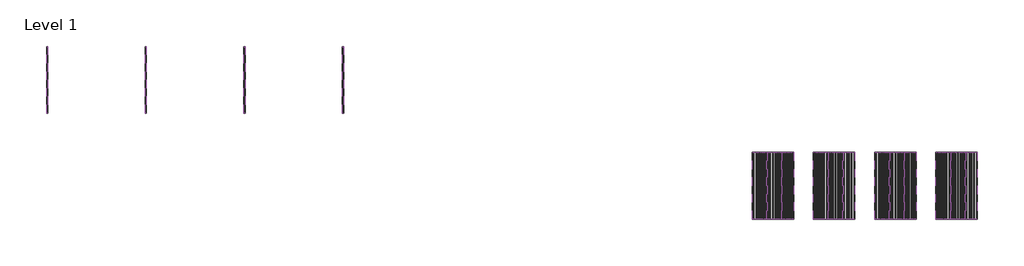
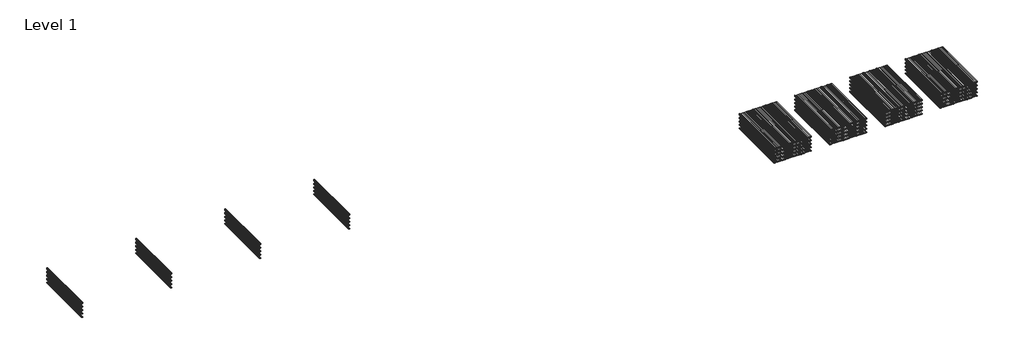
# One storey, incomplete: 80 plates.
"""IFC4 building model written with IfcOpenShell, lengths in millimetres."""

from ifc_helpers import new_model, si_unit, origin, place, context, project, spatial, transform, mapped, element, save
from components import plate_78044e65, plate_8ebf9e64, plate_1189f156, plate_2aa0ecfb, plate_6eb5bec9, plate_4da1124c, plate_e932f5b0, plate_27f2c497, plate_cfb06c0a, plate_013d1d16, plate_3d06f1da, plate_7e4b2e3b, plate_5461fc3c, plate_6784a85b, plate_64fb639c, plate_9c762072, plate_64f30df9, plate_2c15fbec, plate_7fcfe3b8, plate_cba14e92

model = new_model("IFC4")

# Units and contexts
model_context = context("Model", 3, world=origin())
ifc_project = project(units=[si_unit("LENGTHUNIT", "METRE", prefix="MILLI")], contexts=[model_context])

# Site, building, storey
site = spatial("IfcSite", under=ifc_project)
building = spatial("IfcBuilding", under=site)
storey = spatial("IfcBuildingStorey", under=building, Name="Level 1", Elevation=0.0)

# Plates
placement = place(None, origin())
plate_shape = plate_78044e65(model_context)
element("IfcPlate", 1, ObjectType="Paneles-Sándwich-Madera_PALDR-AC_Curtain-Panel : PALDR AC 30/15", at=placement, inside=storey, context=model_context, shape_type="MappedRepresentation", body=[
    mapped(plate_shape, transform((-8968.7651938, -3830.5491567, 500.0), x_axis=(1.0, 0.0, 0.0), y_axis=(0.0, 0.0, -1.0), z_axis=(0.0, 1.0, 0.0))),
])
element("IfcPlate", 2, ObjectType="Paneles-Sándwich-Madera_PALDR-AC_Curtain-Panel : PALDR AC 30/15", at=placement, inside=storey, context=model_context, shape_type="MappedRepresentation", body=[
    mapped(plate_shape, transform((13231.2348056, -3830.4381533, 500.0), x_axis=(1.0, 0.0, 0.0), y_axis=(0.0, 0.0, -1.0), z_axis=(0.0, 1.0, 0.0))),
])
plate_2_shape = plate_8ebf9e64(model_context)
element("IfcPlate", 3, ObjectType="Paneles-Sándwich-Madera_PALDR-AC_Curtain-Panel : PALDR AC 40/15", at=placement, inside=storey, context=model_context, shape_type="MappedRepresentation", body=[
    mapped(plate_2_shape, transform((-8968.7651938, -3830.5491567, 800.0), x_axis=(1.0, 0.0, 0.0), y_axis=(0.0, 0.0, -1.0), z_axis=(0.0, 1.0, 0.0))),
])
element("IfcPlate", 4, ObjectType="Paneles-Sándwich-Madera_PALDR-AC_Curtain-Panel : PALDR AC 40/15", at=placement, inside=storey, context=model_context, shape_type="MappedRepresentation", body=[
    mapped(plate_2_shape, transform((13231.2348056, -3830.4381533, 800.0), x_axis=(1.0, 0.0, 0.0), y_axis=(0.0, 0.0, -1.0), z_axis=(0.0, 1.0, 0.0))),
])
plate_3_shape = plate_1189f156(model_context)
element("IfcPlate", 5, ObjectType="Paneles-Sándwich-Madera_PALDR-AC_Curtain-Panel : PALDR AC 50/15", at=placement, inside=storey, context=model_context, shape_type="MappedRepresentation", body=[
    mapped(plate_3_shape, transform((-8968.7651938, -3830.5491567, 1100.0), x_axis=(1.0, 0.0, 0.0), y_axis=(0.0, 0.0, -1.0), z_axis=(0.0, 1.0, 0.0))),
])
element("IfcPlate", 6, ObjectType="Paneles-Sándwich-Madera_PALDR-AC_Curtain-Panel : PALDR AC 50/15", at=placement, inside=storey, context=model_context, shape_type="MappedRepresentation", body=[
    mapped(plate_3_shape, transform((13231.2348056, -3830.4381533, 1100.0), x_axis=(1.0, 0.0, 0.0), y_axis=(0.0, 0.0, -1.0), z_axis=(0.0, 1.0, 0.0))),
])
plate_4_shape = plate_2aa0ecfb(model_context)
element("IfcPlate", 7, ObjectType="Paneles-Sándwich-Madera_PALDR-AC_Curtain-Panel : PALDR AC 60/15", at=placement, inside=storey, context=model_context, shape_type="MappedRepresentation", body=[
    mapped(plate_4_shape, transform((-8968.7651938, -3830.5491567, 1400.0), x_axis=(1.0, 0.0, 0.0), y_axis=(0.0, 0.0, -1.0), z_axis=(0.0, 1.0, 0.0))),
])
element("IfcPlate", 8, ObjectType="Paneles-Sándwich-Madera_PALDR-AC_Curtain-Panel : PALDR AC 60/15", at=placement, inside=storey, context=model_context, shape_type="MappedRepresentation", body=[
    mapped(plate_4_shape, transform((13231.2348056, -3830.4381533, 1400.0), x_axis=(1.0, 0.0, 0.0), y_axis=(0.0, 0.0, -1.0), z_axis=(0.0, 1.0, 0.0))),
])
plate_5_shape = plate_6eb5bec9(model_context)
element("IfcPlate", 9, ObjectType="Paneles-Sándwich-Madera_PALDR-AC_Curtain-Panel : PALDR AC 80/15", at=placement, inside=storey, context=model_context, shape_type="MappedRepresentation", body=[
    mapped(plate_5_shape, transform((-8968.7651938, -3830.5491567, 1700.0), x_axis=(1.0, 0.0, 0.0), y_axis=(0.0, 0.0, -1.0), z_axis=(0.0, 1.0, 0.0))),
])
element("IfcPlate", 10, ObjectType="Paneles-Sándwich-Madera_PALDR-AC_Curtain-Panel : PALDR AC 80/15", at=placement, inside=storey, context=model_context, shape_type="MappedRepresentation", body=[
    mapped(plate_5_shape, transform((13231.2348056, -3830.4381533, 1700.0), x_axis=(1.0, 0.0, 0.0), y_axis=(0.0, 0.0, -1.0), z_axis=(0.0, 1.0, 0.0))),
])
plate_6_shape = plate_4da1124c(model_context)
element("IfcPlate", 11, ObjectType="Paneles-Sándwich-Madera_PALDR-H_Curtain-Panel : PALDR H 30/10", at=placement, inside=storey, context=model_context, shape_type="MappedRepresentation", body=[
    mapped(plate_6_shape, transform((5831.234806, -3830.493655, 500.0), x_axis=(1.0, 0.0, 0.0), y_axis=(0.0, 0.0, -1.0), z_axis=(0.0, 1.0, 0.0))),
])
plate_7_shape = plate_e932f5b0(model_context)
element("IfcPlate", 12, ObjectType="Paneles-Sándwich-Madera_PALDR-H_Curtain-Panel : PALDR H 40/10", at=placement, inside=storey, context=model_context, shape_type="MappedRepresentation", body=[
    mapped(plate_7_shape, transform((5831.234806, -3830.493655, 800.0), x_axis=(1.0, 0.0, 0.0), y_axis=(0.0, 0.0, -1.0), z_axis=(0.0, 1.0, 0.0))),
])
plate_8_shape = plate_27f2c497(model_context)
element("IfcPlate", 13, ObjectType="Paneles-Sándwich-Madera_PALDR-H_Curtain-Panel : PALDR H 50/10", at=placement, inside=storey, context=model_context, shape_type="MappedRepresentation", body=[
    mapped(plate_8_shape, transform((5831.234806, -3830.493655, 1100.0), x_axis=(1.0, 0.0, 0.0), y_axis=(0.0, 0.0, -1.0), z_axis=(0.0, 1.0, 0.0))),
])
plate_9_shape = plate_cfb06c0a(model_context)
element("IfcPlate", 14, ObjectType="Paneles-Sándwich-Madera_PALDR-H_Curtain-Panel : PALDR H 60/10", at=placement, inside=storey, context=model_context, shape_type="MappedRepresentation", body=[
    mapped(plate_9_shape, transform((5831.234806, -3830.493655, 1400.0), x_axis=(1.0, 0.0, 0.0), y_axis=(0.0, 0.0, -1.0), z_axis=(0.0, 1.0, 0.0))),
])
plate_10_shape = plate_013d1d16(model_context)
element("IfcPlate", 15, ObjectType="Paneles-Sándwich-Madera_PALDR-H_Curtain-Panel : PALDR H 80/10", at=placement, inside=storey, context=model_context, shape_type="MappedRepresentation", body=[
    mapped(plate_10_shape, transform((5831.234806, -3830.493655, 1700.0), x_axis=(1.0, 0.0, 0.0), y_axis=(0.0, 0.0, -1.0), z_axis=(0.0, 1.0, 0.0))),
])
element("IfcPlate", 16, ObjectType="Paneles-Sándwich-Madera_PALDR-O_Curtain-Panel : PALDR O 30/10", at=placement, inside=storey, context=model_context, shape_type="MappedRepresentation", body=[
    mapped(plate_6_shape, transform((-1568.7651938, -3830.5491567, 500.0), x_axis=(1.0, 0.0, 0.0), y_axis=(0.0, 0.0, -1.0), z_axis=(0.0, 1.0, 0.0))),
])
element("IfcPlate", 17, ObjectType="Paneles-Sándwich-Madera_PALDR-O_Curtain-Panel : PALDR O 40/10", at=placement, inside=storey, context=model_context, shape_type="MappedRepresentation", body=[
    mapped(plate_7_shape, transform((-1568.7651938, -3830.5491567, 800.0), x_axis=(1.0, 0.0, 0.0), y_axis=(0.0, 0.0, -1.0), z_axis=(0.0, 1.0, 0.0))),
])
element("IfcPlate", 18, ObjectType="Paneles-Sándwich-Madera_PALDR-O_Curtain-Panel : PALDR O 50/10", at=placement, inside=storey, context=model_context, shape_type="MappedRepresentation", body=[
    mapped(plate_8_shape, transform((-1568.7651938, -3830.5491567, 1100.0), x_axis=(1.0, 0.0, 0.0), y_axis=(0.0, 0.0, -1.0), z_axis=(0.0, 1.0, 0.0))),
])
element("IfcPlate", 19, ObjectType="Paneles-Sándwich-Madera_PALDR-O_Curtain-Panel : PALDR O 60/10", at=placement, inside=storey, context=model_context, shape_type="MappedRepresentation", body=[
    mapped(plate_9_shape, transform((-1568.7651938, -3830.5491567, 1400.0), x_axis=(1.0, 0.0, 0.0), y_axis=(0.0, 0.0, -1.0), z_axis=(0.0, 1.0, 0.0))),
])
element("IfcPlate", 20, ObjectType="Paneles-Sándwich-Madera_PALDR-O_Curtain-Panel : PALDR O 80/10", at=placement, inside=storey, context=model_context, shape_type="MappedRepresentation", body=[
    mapped(plate_10_shape, transform((-1568.7651938, -3830.5491567, 1700.0), x_axis=(1.0, 0.0, 0.0), y_axis=(0.0, 0.0, -1.0), z_axis=(0.0, 1.0, 0.0))),
])
plate_11_shape = plate_3d06f1da(model_context)
element("IfcPlate", 21, ObjectType="Paneles-Sándwich-Madera_PAPUR-AC_Curtain-Panel : PAPUR AC 80/10", at=placement, inside=storey, context=model_context, shape_type="MappedRepresentation", body=[
    mapped(plate_11_shape, transform((58336.966913, -11787.1732605, 1556.1283436), x_axis=(1.0, 0.0, 0.0), y_axis=(0.0, 0.0, -1.0), z_axis=(0.0, 1.0, 0.0))),
])
element("IfcPlate", 22, ObjectType="Paneles-Sándwich-Madera_PAPUR-AC_Curtain-Panel : PAPUR AC 80/10", at=placement, inside=storey, context=model_context, shape_type="MappedRepresentation", body=[
    mapped(plate_11_shape, transform((59436.966913, -11787.1732605, 1556.1283436), x_axis=(1.0, 0.0, 0.0), y_axis=(0.0, 0.0, -1.0), z_axis=(0.0, 1.0, 0.0))),
])
plate_12_shape = plate_7e4b2e3b(model_context)
element("IfcPlate", 23, ObjectType="Paneles-Sándwich-Madera_PAPUR-AC_Curtain-Panel : PAPUR AC 80/10", at=placement, inside=storey, context=model_context, shape_type="MappedRepresentation", body=[
    mapped(plate_12_shape, transform((60436.966913, -11787.1732605, 1556.1283436), x_axis=(1.0, 0.0, 0.0), y_axis=(0.0, 0.0, -1.0), z_axis=(0.0, 1.0, 0.0))),
])
plate_13_shape = plate_5461fc3c(model_context)
element("IfcPlate", 24, ObjectType="Paneles-Sándwich-Madera_PAPUR-AC_Curtain-Panel : PAPUR AC 60/10", at=placement, inside=storey, context=model_context, shape_type="MappedRepresentation", body=[
    mapped(plate_13_shape, transform((58336.966913, -11787.1732605, 1256.1283436), x_axis=(1.0, 0.0, 0.0), y_axis=(0.0, 0.0, -1.0), z_axis=(0.0, 1.0, 0.0))),
])
element("IfcPlate", 25, ObjectType="Paneles-Sándwich-Madera_PAPUR-AC_Curtain-Panel : PAPUR AC 60/10", at=placement, inside=storey, context=model_context, shape_type="MappedRepresentation", body=[
    mapped(plate_13_shape, transform((59436.966913, -11787.1732605, 1256.1283436), x_axis=(1.0, 0.0, 0.0), y_axis=(0.0, 0.0, -1.0), z_axis=(0.0, 1.0, 0.0))),
])
plate_14_shape = plate_6784a85b(model_context)
element("IfcPlate", 26, ObjectType="Paneles-Sándwich-Madera_PAPUR-AC_Curtain-Panel : PAPUR AC 60/10", at=placement, inside=storey, context=model_context, shape_type="MappedRepresentation", body=[
    mapped(plate_14_shape, transform((60436.966913, -11787.1732605, 1256.1283436), x_axis=(1.0, 0.0, 0.0), y_axis=(0.0, 0.0, -1.0), z_axis=(0.0, 1.0, 0.0))),
])
plate_15_shape = plate_64fb639c(model_context)
element("IfcPlate", 27, ObjectType="Paneles-Sándwich-Madera_PAPUR-AC_Curtain-Panel : PAPUR AC 50/10", at=placement, inside=storey, context=model_context, shape_type="MappedRepresentation", body=[
    mapped(plate_15_shape, transform((58336.966913, -11787.1732605, 956.1283436), x_axis=(1.0, 0.0, 0.0), y_axis=(0.0, 0.0, -1.0), z_axis=(0.0, 1.0, 0.0))),
])
element("IfcPlate", 28, ObjectType="Paneles-Sándwich-Madera_PAPUR-AC_Curtain-Panel : PAPUR AC 50/10", at=placement, inside=storey, context=model_context, shape_type="MappedRepresentation", body=[
    mapped(plate_15_shape, transform((59436.966913, -11787.1732605, 956.1283436), x_axis=(1.0, 0.0, 0.0), y_axis=(0.0, 0.0, -1.0), z_axis=(0.0, 1.0, 0.0))),
])
plate_16_shape = plate_9c762072(model_context)
element("IfcPlate", 29, ObjectType="Paneles-Sándwich-Madera_PAPUR-AC_Curtain-Panel : PAPUR AC 50/10", at=placement, inside=storey, context=model_context, shape_type="MappedRepresentation", body=[
    mapped(plate_16_shape, transform((60436.966913, -11787.1732605, 956.1283436), x_axis=(1.0, 0.0, 0.0), y_axis=(0.0, 0.0, -1.0), z_axis=(0.0, 1.0, 0.0))),
])
plate_17_shape = plate_64f30df9(model_context)
element("IfcPlate", 30, ObjectType="Paneles-Sándwich-Madera_PAPUR-AC_Curtain-Panel : PAPUR AC 40/10", at=placement, inside=storey, context=model_context, shape_type="MappedRepresentation", body=[
    mapped(plate_17_shape, transform((58336.966913, -11787.1732605, 656.1283436), x_axis=(1.0, 0.0, 0.0), y_axis=(0.0, 0.0, -1.0), z_axis=(0.0, 1.0, 0.0))),
])
element("IfcPlate", 31, ObjectType="Paneles-Sándwich-Madera_PAPUR-AC_Curtain-Panel : PAPUR AC 40/10", at=placement, inside=storey, context=model_context, shape_type="MappedRepresentation", body=[
    mapped(plate_17_shape, transform((59436.966913, -11787.1732605, 656.1283436), x_axis=(1.0, 0.0, 0.0), y_axis=(0.0, 0.0, -1.0), z_axis=(0.0, 1.0, 0.0))),
])
plate_18_shape = plate_2c15fbec(model_context)
element("IfcPlate", 32, ObjectType="Paneles-Sándwich-Madera_PAPUR-AC_Curtain-Panel : PAPUR AC 40/10", at=placement, inside=storey, context=model_context, shape_type="MappedRepresentation", body=[
    mapped(plate_18_shape, transform((60436.966913, -11787.1732605, 656.1283436), x_axis=(1.0, 0.0, 0.0), y_axis=(0.0, 0.0, -1.0), z_axis=(0.0, 1.0, 0.0))),
])
plate_19_shape = plate_7fcfe3b8(model_context)
element("IfcPlate", 33, ObjectType="Paneles-Sándwich-Madera_PAPUR-AC_Curtain-Panel : PAPUR AC 30/10", at=placement, inside=storey, context=model_context, shape_type="MappedRepresentation", body=[
    mapped(plate_19_shape, transform((58336.966913, -11787.1732605, 356.1283436), x_axis=(1.0, 0.0, 0.0), y_axis=(0.0, 0.0, -1.0), z_axis=(0.0, 1.0, 0.0))),
])
element("IfcPlate", 34, ObjectType="Paneles-Sándwich-Madera_PAPUR-AC_Curtain-Panel : PAPUR AC 30/10", at=placement, inside=storey, context=model_context, shape_type="MappedRepresentation", body=[
    mapped(plate_19_shape, transform((59436.966913, -11787.1732605, 356.1283436), x_axis=(1.0, 0.0, 0.0), y_axis=(0.0, 0.0, -1.0), z_axis=(0.0, 1.0, 0.0))),
])
plate_20_shape = plate_cba14e92(model_context)
element("IfcPlate", 35, ObjectType="Paneles-Sándwich-Madera_PAPUR-AC_Curtain-Panel : PAPUR AC 30/10", at=placement, inside=storey, context=model_context, shape_type="MappedRepresentation", body=[
    mapped(plate_20_shape, transform((60436.966913, -11787.1732605, 356.1283436), x_axis=(1.0, 0.0, 0.0), y_axis=(0.0, 0.0, -1.0), z_axis=(0.0, 1.0, 0.0))),
])
element("IfcPlate", 36, ObjectType="Paneles-Sándwich-Madera_PAPUR-AN_Curtain-Panel : PAPUR AN 80/10", at=placement, inside=storey, context=model_context, shape_type="MappedRepresentation", body=[
    mapped(plate_11_shape, transform((44536.966913, -11787.1732605, 1556.1283436), x_axis=(1.0, 0.0, 0.0), y_axis=(0.0, 0.0, -1.0), z_axis=(0.0, 1.0, 0.0))),
])
element("IfcPlate", 37, ObjectType="Paneles-Sándwich-Madera_PAPUR-AN_Curtain-Panel : PAPUR AN 80/10", at=placement, inside=storey, context=model_context, shape_type="MappedRepresentation", body=[
    mapped(plate_11_shape, transform((45636.966913, -11787.1732605, 1556.1283436), x_axis=(1.0, 0.0, 0.0), y_axis=(0.0, 0.0, -1.0), z_axis=(0.0, 1.0, 0.0))),
])
element("IfcPlate", 38, ObjectType="Paneles-Sándwich-Madera_PAPUR-AN_Curtain-Panel : PAPUR AN 80/10", at=placement, inside=storey, context=model_context, shape_type="MappedRepresentation", body=[
    mapped(plate_12_shape, transform((46636.966913, -11787.1732605, 1556.1283436), x_axis=(1.0, 0.0, 0.0), y_axis=(0.0, 0.0, -1.0), z_axis=(0.0, 1.0, 0.0))),
])
element("IfcPlate", 39, ObjectType="Paneles-Sándwich-Madera_PAPUR-AN_Curtain-Panel : PAPUR AN 60/10", at=placement, inside=storey, context=model_context, shape_type="MappedRepresentation", body=[
    mapped(plate_13_shape, transform((44536.966913, -11787.1732605, 1256.1283436), x_axis=(1.0, 0.0, 0.0), y_axis=(0.0, 0.0, -1.0), z_axis=(0.0, 1.0, 0.0))),
])
element("IfcPlate", 40, ObjectType="Paneles-Sándwich-Madera_PAPUR-AN_Curtain-Panel : PAPUR AN 60/10", at=placement, inside=storey, context=model_context, shape_type="MappedRepresentation", body=[
    mapped(plate_13_shape, transform((45636.966913, -11787.1732605, 1256.1283436), x_axis=(1.0, 0.0, 0.0), y_axis=(0.0, 0.0, -1.0), z_axis=(0.0, 1.0, 0.0))),
])
element("IfcPlate", 41, ObjectType="Paneles-Sándwich-Madera_PAPUR-AN_Curtain-Panel : PAPUR AN 60/10", at=placement, inside=storey, context=model_context, shape_type="MappedRepresentation", body=[
    mapped(plate_14_shape, transform((46636.966913, -11787.1732605, 1256.1283436), x_axis=(1.0, 0.0, 0.0), y_axis=(0.0, 0.0, -1.0), z_axis=(0.0, 1.0, 0.0))),
])
element("IfcPlate", 42, ObjectType="Paneles-Sándwich-Madera_PAPUR-AN_Curtain-Panel : PAPUR AN 50/10", at=placement, inside=storey, context=model_context, shape_type="MappedRepresentation", body=[
    mapped(plate_15_shape, transform((44536.966913, -11787.1732605, 956.1283436), x_axis=(1.0, 0.0, 0.0), y_axis=(0.0, 0.0, -1.0), z_axis=(0.0, 1.0, 0.0))),
])
element("IfcPlate", 43, ObjectType="Paneles-Sándwich-Madera_PAPUR-AN_Curtain-Panel : PAPUR AN 50/10", at=placement, inside=storey, context=model_context, shape_type="MappedRepresentation", body=[
    mapped(plate_15_shape, transform((45636.966913, -11787.1732605, 956.1283436), x_axis=(1.0, 0.0, 0.0), y_axis=(0.0, 0.0, -1.0), z_axis=(0.0, 1.0, 0.0))),
])
element("IfcPlate", 44, ObjectType="Paneles-Sándwich-Madera_PAPUR-AN_Curtain-Panel : PAPUR AN 50/10", at=placement, inside=storey, context=model_context, shape_type="MappedRepresentation", body=[
    mapped(plate_16_shape, transform((46636.966913, -11787.1732605, 956.1283436), x_axis=(1.0, 0.0, 0.0), y_axis=(0.0, 0.0, -1.0), z_axis=(0.0, 1.0, 0.0))),
])
element("IfcPlate", 45, ObjectType="Paneles-Sándwich-Madera_PAPUR-AN_Curtain-Panel : PAPUR AN 40/10", at=placement, inside=storey, context=model_context, shape_type="MappedRepresentation", body=[
    mapped(plate_17_shape, transform((44536.966913, -11787.1732605, 656.1283436), x_axis=(1.0, 0.0, 0.0), y_axis=(0.0, 0.0, -1.0), z_axis=(0.0, 1.0, 0.0))),
])
element("IfcPlate", 46, ObjectType="Paneles-Sándwich-Madera_PAPUR-AN_Curtain-Panel : PAPUR AN 40/10", at=placement, inside=storey, context=model_context, shape_type="MappedRepresentation", body=[
    mapped(plate_17_shape, transform((45636.966913, -11787.1732605, 656.1283436), x_axis=(1.0, 0.0, 0.0), y_axis=(0.0, 0.0, -1.0), z_axis=(0.0, 1.0, 0.0))),
])
element("IfcPlate", 47, ObjectType="Paneles-Sándwich-Madera_PAPUR-AN_Curtain-Panel : PAPUR AN 40/10", at=placement, inside=storey, context=model_context, shape_type="MappedRepresentation", body=[
    mapped(plate_18_shape, transform((46636.966913, -11787.1732605, 656.1283436), x_axis=(1.0, 0.0, 0.0), y_axis=(0.0, 0.0, -1.0), z_axis=(0.0, 1.0, 0.0))),
])
element("IfcPlate", 48, ObjectType="Paneles-Sándwich-Madera_PAPUR-AN_Curtain-Panel : PAPUR AN 30/10", at=placement, inside=storey, context=model_context, shape_type="MappedRepresentation", body=[
    mapped(plate_19_shape, transform((44536.966913, -11787.1732605, 356.1283436), x_axis=(1.0, 0.0, 0.0), y_axis=(0.0, 0.0, -1.0), z_axis=(0.0, 1.0, 0.0))),
])
element("IfcPlate", 49, ObjectType="Paneles-Sándwich-Madera_PAPUR-AN_Curtain-Panel : PAPUR AN 30/10", at=placement, inside=storey, context=model_context, shape_type="MappedRepresentation", body=[
    mapped(plate_19_shape, transform((45636.966913, -11787.1732605, 356.1283436), x_axis=(1.0, 0.0, 0.0), y_axis=(0.0, 0.0, -1.0), z_axis=(0.0, 1.0, 0.0))),
])
element("IfcPlate", 50, ObjectType="Paneles-Sándwich-Madera_PAPUR-AN_Curtain-Panel : PAPUR AN 30/10", at=placement, inside=storey, context=model_context, shape_type="MappedRepresentation", body=[
    mapped(plate_20_shape, transform((46636.966913, -11787.1732605, 356.1283436), x_axis=(1.0, 0.0, 0.0), y_axis=(0.0, 0.0, -1.0), z_axis=(0.0, 1.0, 0.0))),
])
element("IfcPlate", 51, ObjectType="Paneles-Sándwich-Madera_PAPUR-H_Curtain-Panel : PAPUR H 80/10", at=placement, inside=storey, context=model_context, shape_type="MappedRepresentation", body=[
    mapped(plate_11_shape, transform((53736.966913, -11787.1732605, 1556.1283436), x_axis=(1.0, 0.0, 0.0), y_axis=(0.0, 0.0, -1.0), z_axis=(0.0, 1.0, 0.0))),
])
element("IfcPlate", 52, ObjectType="Paneles-Sándwich-Madera_PAPUR-H_Curtain-Panel : PAPUR H 80/10", at=placement, inside=storey, context=model_context, shape_type="MappedRepresentation", body=[
    mapped(plate_11_shape, transform((54836.966913, -11787.1732605, 1556.1283436), x_axis=(1.0, 0.0, 0.0), y_axis=(0.0, 0.0, -1.0), z_axis=(0.0, 1.0, 0.0))),
])
element("IfcPlate", 53, ObjectType="Paneles-Sándwich-Madera_PAPUR-H_Curtain-Panel : PAPUR H 80/10", at=placement, inside=storey, context=model_context, shape_type="MappedRepresentation", body=[
    mapped(plate_12_shape, transform((55836.966913, -11787.1732605, 1556.1283436), x_axis=(1.0, 0.0, 0.0), y_axis=(0.0, 0.0, -1.0), z_axis=(0.0, 1.0, 0.0))),
])
element("IfcPlate", 54, ObjectType="Paneles-Sándwich-Madera_PAPUR-H_Curtain-Panel : PAPUR H 60/10", at=placement, inside=storey, context=model_context, shape_type="MappedRepresentation", body=[
    mapped(plate_13_shape, transform((53736.966913, -11787.1732605, 1256.1283436), x_axis=(1.0, 0.0, 0.0), y_axis=(0.0, 0.0, -1.0), z_axis=(0.0, 1.0, 0.0))),
])
element("IfcPlate", 55, ObjectType="Paneles-Sándwich-Madera_PAPUR-H_Curtain-Panel : PAPUR H 60/10", at=placement, inside=storey, context=model_context, shape_type="MappedRepresentation", body=[
    mapped(plate_13_shape, transform((54836.966913, -11787.1732605, 1256.1283436), x_axis=(1.0, 0.0, 0.0), y_axis=(0.0, 0.0, -1.0), z_axis=(0.0, 1.0, 0.0))),
])
element("IfcPlate", 56, ObjectType="Paneles-Sándwich-Madera_PAPUR-H_Curtain-Panel : PAPUR H 60/10", at=placement, inside=storey, context=model_context, shape_type="MappedRepresentation", body=[
    mapped(plate_14_shape, transform((55836.966913, -11787.1732605, 1256.1283436), x_axis=(1.0, 0.0, 0.0), y_axis=(0.0, 0.0, -1.0), z_axis=(0.0, 1.0, 0.0))),
])
element("IfcPlate", 57, ObjectType="Paneles-Sándwich-Madera_PAPUR-H_Curtain-Panel : PAPUR H 50/10", at=placement, inside=storey, context=model_context, shape_type="MappedRepresentation", body=[
    mapped(plate_15_shape, transform((53736.966913, -11787.1732605, 956.1283436), x_axis=(1.0, 0.0, 0.0), y_axis=(0.0, 0.0, -1.0), z_axis=(0.0, 1.0, 0.0))),
])
element("IfcPlate", 58, ObjectType="Paneles-Sándwich-Madera_PAPUR-H_Curtain-Panel : PAPUR H 50/10", at=placement, inside=storey, context=model_context, shape_type="MappedRepresentation", body=[
    mapped(plate_15_shape, transform((54836.966913, -11787.1732605, 956.1283436), x_axis=(1.0, 0.0, 0.0), y_axis=(0.0, 0.0, -1.0), z_axis=(0.0, 1.0, 0.0))),
])
element("IfcPlate", 59, ObjectType="Paneles-Sándwich-Madera_PAPUR-H_Curtain-Panel : PAPUR H 50/10", at=placement, inside=storey, context=model_context, shape_type="MappedRepresentation", body=[
    mapped(plate_16_shape, transform((55836.966913, -11787.1732605, 956.1283436), x_axis=(1.0, 0.0, 0.0), y_axis=(0.0, 0.0, -1.0), z_axis=(0.0, 1.0, 0.0))),
])
element("IfcPlate", 60, ObjectType="Paneles-Sándwich-Madera_PAPUR-H_Curtain-Panel : PAPUR H 40/10", at=placement, inside=storey, context=model_context, shape_type="MappedRepresentation", body=[
    mapped(plate_17_shape, transform((53736.966913, -11787.1732605, 656.1283436), x_axis=(1.0, 0.0, 0.0), y_axis=(0.0, 0.0, -1.0), z_axis=(0.0, 1.0, 0.0))),
])
element("IfcPlate", 61, ObjectType="Paneles-Sándwich-Madera_PAPUR-H_Curtain-Panel : PAPUR H 40/10", at=placement, inside=storey, context=model_context, shape_type="MappedRepresentation", body=[
    mapped(plate_17_shape, transform((54836.966913, -11787.1732605, 656.1283436), x_axis=(1.0, 0.0, 0.0), y_axis=(0.0, 0.0, -1.0), z_axis=(0.0, 1.0, 0.0))),
])
element("IfcPlate", 62, ObjectType="Paneles-Sándwich-Madera_PAPUR-H_Curtain-Panel : PAPUR H 40/10", at=placement, inside=storey, context=model_context, shape_type="MappedRepresentation", body=[
    mapped(plate_18_shape, transform((55836.966913, -11787.1732605, 656.1283436), x_axis=(1.0, 0.0, 0.0), y_axis=(0.0, 0.0, -1.0), z_axis=(0.0, 1.0, 0.0))),
])
element("IfcPlate", 63, ObjectType="Paneles-Sándwich-Madera_PAPUR-H_Curtain-Panel : PAPUR H 30/10", at=placement, inside=storey, context=model_context, shape_type="MappedRepresentation", body=[
    mapped(plate_19_shape, transform((53736.966913, -11787.1732605, 356.1283436), x_axis=(1.0, 0.0, 0.0), y_axis=(0.0, 0.0, -1.0), z_axis=(0.0, 1.0, 0.0))),
])
element("IfcPlate", 64, ObjectType="Paneles-Sándwich-Madera_PAPUR-H_Curtain-Panel : PAPUR H 30/10", at=placement, inside=storey, context=model_context, shape_type="MappedRepresentation", body=[
    mapped(plate_19_shape, transform((54836.966913, -11787.1732605, 356.1283436), x_axis=(1.0, 0.0, 0.0), y_axis=(0.0, 0.0, -1.0), z_axis=(0.0, 1.0, 0.0))),
])
element("IfcPlate", 65, ObjectType="Paneles-Sándwich-Madera_PAPUR-H_Curtain-Panel : PAPUR H 30/10", at=placement, inside=storey, context=model_context, shape_type="MappedRepresentation", body=[
    mapped(plate_20_shape, transform((55836.966913, -11787.1732605, 356.1283436), x_axis=(1.0, 0.0, 0.0), y_axis=(0.0, 0.0, -1.0), z_axis=(0.0, 1.0, 0.0))),
])
element("IfcPlate", 66, ObjectType="Paneles-Sándwich-Madera_PAPUR-O_Curtain-Panel : PAPUR O 80/10", at=placement, inside=storey, context=model_context, shape_type="MappedRepresentation", body=[
    mapped(plate_11_shape, transform((49136.966913, -11787.1732605, 1556.1283436), x_axis=(1.0, 0.0, 0.0), y_axis=(0.0, 0.0, -1.0), z_axis=(0.0, 1.0, 0.0))),
])
element("IfcPlate", 67, ObjectType="Paneles-Sándwich-Madera_PAPUR-O_Curtain-Panel : PAPUR O 80/10", at=placement, inside=storey, context=model_context, shape_type="MappedRepresentation", body=[
    mapped(plate_11_shape, transform((50236.966913, -11787.1732605, 1556.1283436), x_axis=(1.0, 0.0, 0.0), y_axis=(0.0, 0.0, -1.0), z_axis=(0.0, 1.0, 0.0))),
])
element("IfcPlate", 68, ObjectType="Paneles-Sándwich-Madera_PAPUR-O_Curtain-Panel : PAPUR O 80/10", at=placement, inside=storey, context=model_context, shape_type="MappedRepresentation", body=[
    mapped(plate_12_shape, transform((51236.966913, -11787.1732605, 1556.1283436), x_axis=(1.0, 0.0, 0.0), y_axis=(0.0, 0.0, -1.0), z_axis=(0.0, 1.0, 0.0))),
])
element("IfcPlate", 69, ObjectType="Paneles-Sándwich-Madera_PAPUR-O_Curtain-Panel : PAPUR O 60/10", at=placement, inside=storey, context=model_context, shape_type="MappedRepresentation", body=[
    mapped(plate_13_shape, transform((49136.966913, -11787.1732605, 1256.1283436), x_axis=(1.0, 0.0, 0.0), y_axis=(0.0, 0.0, -1.0), z_axis=(0.0, 1.0, 0.0))),
])
element("IfcPlate", 70, ObjectType="Paneles-Sándwich-Madera_PAPUR-O_Curtain-Panel : PAPUR O 60/10", at=placement, inside=storey, context=model_context, shape_type="MappedRepresentation", body=[
    mapped(plate_13_shape, transform((50236.966913, -11787.1732605, 1256.1283436), x_axis=(1.0, 0.0, 0.0), y_axis=(0.0, 0.0, -1.0), z_axis=(0.0, 1.0, 0.0))),
])
element("IfcPlate", 71, ObjectType="Paneles-Sándwich-Madera_PAPUR-O_Curtain-Panel : PAPUR O 60/10", at=placement, inside=storey, context=model_context, shape_type="MappedRepresentation", body=[
    mapped(plate_14_shape, transform((51236.966913, -11787.1732605, 1256.1283436), x_axis=(1.0, 0.0, 0.0), y_axis=(0.0, 0.0, -1.0), z_axis=(0.0, 1.0, 0.0))),
])
element("IfcPlate", 72, ObjectType="Paneles-Sándwich-Madera_PAPUR-O_Curtain-Panel : PAPUR O 50/10", at=placement, inside=storey, context=model_context, shape_type="MappedRepresentation", body=[
    mapped(plate_15_shape, transform((49136.966913, -11787.1732605, 956.1283436), x_axis=(1.0, 0.0, 0.0), y_axis=(0.0, 0.0, -1.0), z_axis=(0.0, 1.0, 0.0))),
])
element("IfcPlate", 73, ObjectType="Paneles-Sándwich-Madera_PAPUR-O_Curtain-Panel : PAPUR O 50/10", at=placement, inside=storey, context=model_context, shape_type="MappedRepresentation", body=[
    mapped(plate_15_shape, transform((50236.966913, -11787.1732605, 956.1283436), x_axis=(1.0, 0.0, 0.0), y_axis=(0.0, 0.0, -1.0), z_axis=(0.0, 1.0, 0.0))),
])
element("IfcPlate", 74, ObjectType="Paneles-Sándwich-Madera_PAPUR-O_Curtain-Panel : PAPUR O 50/10", at=placement, inside=storey, context=model_context, shape_type="MappedRepresentation", body=[
    mapped(plate_16_shape, transform((51236.966913, -11787.1732605, 956.1283436), x_axis=(1.0, 0.0, 0.0), y_axis=(0.0, 0.0, -1.0), z_axis=(0.0, 1.0, 0.0))),
])
element("IfcPlate", 75, ObjectType="Paneles-Sándwich-Madera_PAPUR-O_Curtain-Panel : PAPUR O 40/10", at=placement, inside=storey, context=model_context, shape_type="MappedRepresentation", body=[
    mapped(plate_17_shape, transform((49136.966913, -11787.1732605, 656.1283436), x_axis=(1.0, 0.0, 0.0), y_axis=(0.0, 0.0, -1.0), z_axis=(0.0, 1.0, 0.0))),
])
element("IfcPlate", 76, ObjectType="Paneles-Sándwich-Madera_PAPUR-O_Curtain-Panel : PAPUR O 40/10", at=placement, inside=storey, context=model_context, shape_type="MappedRepresentation", body=[
    mapped(plate_17_shape, transform((50236.966913, -11787.1732605, 656.1283436), x_axis=(1.0, 0.0, 0.0), y_axis=(0.0, 0.0, -1.0), z_axis=(0.0, 1.0, 0.0))),
])
element("IfcPlate", 77, ObjectType="Paneles-Sándwich-Madera_PAPUR-O_Curtain-Panel : PAPUR O 40/10", at=placement, inside=storey, context=model_context, shape_type="MappedRepresentation", body=[
    mapped(plate_18_shape, transform((51236.966913, -11787.1732605, 656.1283436), x_axis=(1.0, 0.0, 0.0), y_axis=(0.0, 0.0, -1.0), z_axis=(0.0, 1.0, 0.0))),
])
element("IfcPlate", 78, ObjectType="Paneles-Sándwich-Madera_PAPUR-O_Curtain-Panel : PAPUR O 30/10", at=placement, inside=storey, context=model_context, shape_type="MappedRepresentation", body=[
    mapped(plate_19_shape, transform((49136.966913, -11787.1732605, 356.1283436), x_axis=(1.0, 0.0, 0.0), y_axis=(0.0, 0.0, -1.0), z_axis=(0.0, 1.0, 0.0))),
])
element("IfcPlate", 79, ObjectType="Paneles-Sándwich-Madera_PAPUR-O_Curtain-Panel : PAPUR O 30/10", at=placement, inside=storey, context=model_context, shape_type="MappedRepresentation", body=[
    mapped(plate_19_shape, transform((50236.966913, -11787.1732605, 356.1283436), x_axis=(1.0, 0.0, 0.0), y_axis=(0.0, 0.0, -1.0), z_axis=(0.0, 1.0, 0.0))),
])
element("IfcPlate", 80, ObjectType="Paneles-Sándwich-Madera_PAPUR-O_Curtain-Panel : PAPUR O 30/10", at=placement, inside=storey, context=model_context, shape_type="MappedRepresentation", body=[
    mapped(plate_20_shape, transform((51236.966913, -11787.1732605, 356.1283436), x_axis=(1.0, 0.0, 0.0), y_axis=(0.0, 0.0, -1.0), z_axis=(0.0, 1.0, 0.0))),
])

save(model, "model.ifc")
